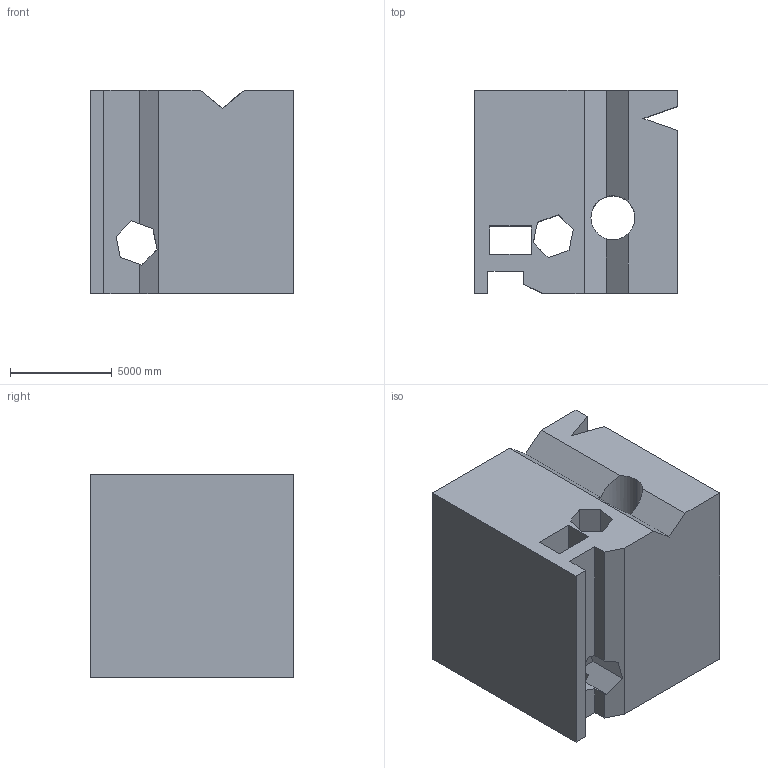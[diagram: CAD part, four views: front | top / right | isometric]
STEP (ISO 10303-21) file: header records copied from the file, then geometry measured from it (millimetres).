
FILE_DESCRIPTION (( 'STEP AP203' ), '1' );
FILE_NAME ('1802.STEP', '2022-08-19T13:01:11', ( 'user' ), ( '' ), 'SwSTEP 2.0', 'SolidWorks 2021', '' );
FILE_SCHEMA (( 'CONFIG_CONTROL_DESIGN' ));
Length unit declared in the file: centimetre
Products named in the file (1): 1802
Bounding box: 10000 x 10000 x 10000 mm (x, y, z)
Volume: 826763686314.9 mm3; surface area: 886113681.7 mm2
Topology: 1 solids, 1 shells, 49 faces, 159 edges, 106 vertices
Faces by surface type: plane 47, cylinder 2
Entity records: 1824 total; most frequent: CARTESIAN_POINT 327, ORIENTED_EDGE 318, DIRECTION 261, EDGE_CURVE 159, LINE 149, VECTOR 149, VERTEX_POINT 106, EDGE_LOOP 57
